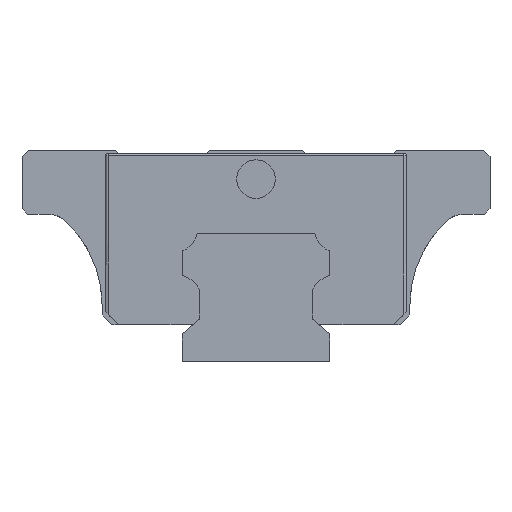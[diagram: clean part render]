
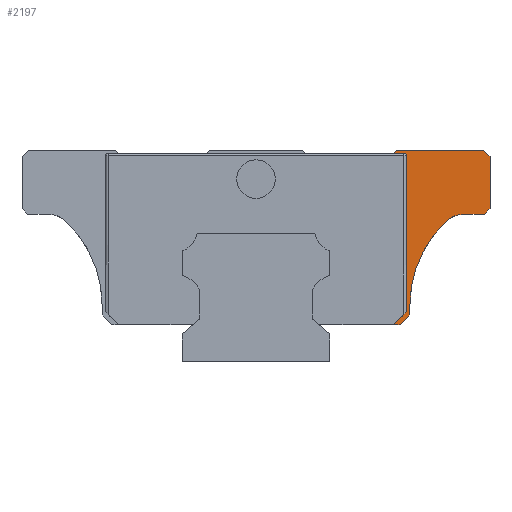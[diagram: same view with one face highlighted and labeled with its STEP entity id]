
A CAD part, left-side view. The second image highlights one B-rep face of the part: STEP entity #2197.
In plain terms, the highlighted planar face has unit normal (-1, 0, 0).
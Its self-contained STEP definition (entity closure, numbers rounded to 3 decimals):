
#31 = CARTESIAN_POINT ( 'NONE',  ( -29.5, -36.5, 33. ) ) ;
#33 = LINE ( 'NONE', #2576, #7843 ) ;
#90 = CIRCLE ( 'NONE', #6942, 0.365 ) ;
#96 = CARTESIAN_POINT ( 'NONE',  ( -29.5, -32.41, 19. ) ) ;
#135 = AXIS2_PLACEMENT_3D ( 'NONE', #96, #666, #5588 ) ;
#152 = VERTEX_POINT ( 'NONE', #2150 ) ;
#156 = CARTESIAN_POINT ( 'NONE',  ( -29.5, -35.6, 23. ) ) ;
#294 = CARTESIAN_POINT ( 'NONE',  ( -29.5, -21.443, 5.8 ) ) ;
#348 = VERTEX_POINT ( 'NONE', #2232 ) ;
#390 = VECTOR ( 'NONE', #4600, 1000. ) ;
#646 = LINE ( 'NONE', #5452, #4904 ) ;
#666 = DIRECTION ( 'NONE',  ( 1., 0., 0. ) ) ;
#789 = VECTOR ( 'NONE', #7481, 1000. ) ;
#818 = LINE ( 'NONE', #31, #6485 ) ;
#875 = ORIENTED_EDGE ( 'NONE', *, *, #2684, .T. ) ;
#941 = VERTEX_POINT ( 'NONE', #5234 ) ;
#1015 = CARTESIAN_POINT ( 'NONE',  ( -29.5, -23.084, 32.135 ) ) ;
#1020 = ORIENTED_EDGE ( 'NONE', *, *, #3218, .T. ) ;
#1041 = CIRCLE ( 'NONE', #135, 4. ) ;
#1079 = CARTESIAN_POINT ( 'NONE',  ( -29.5, -35.6, 23. ) ) ;
#1168 = ORIENTED_EDGE ( 'NONE', *, *, #7699, .T. ) ;
#1212 = CARTESIAN_POINT ( 'NONE',  ( -29.5, -10.009, 5.8 ) ) ;
#1253 = EDGE_CURVE ( 'NONE', #3992, #4781, #1041, .T. ) ;
#1373 = LINE ( 'NONE', #7544, #4984 ) ;
#1384 = ORIENTED_EDGE ( 'NONE', *, *, #7033, .T. ) ;
#1404 = DIRECTION ( 'NONE',  ( 0., 0., 1. ) ) ;
#1735 = EDGE_CURVE ( 'NONE', #3124, #348, #2598, .T. ) ;
#1811 = CARTESIAN_POINT ( 'NONE',  ( -29.5, -21.48, 32.5 ) ) ;
#2012 = LINE ( 'NONE', #3262, #2160 ) ;
#2050 = CARTESIAN_POINT ( 'NONE',  ( -29.5, -23.449, 7.806 ) ) ;
#2150 = CARTESIAN_POINT ( 'NONE',  ( -29.5, -24., 7.3 ) ) ;
#2160 = VECTOR ( 'NONE', #5204, 1000. ) ;
#2197 = ADVANCED_FACE ( 'NONE', ( #3834 ), #2413, .T. ) ;
#2232 = CARTESIAN_POINT ( 'NONE',  ( -29.5, -36.5, 32.05 ) ) ;
#2247 = VERTEX_POINT ( 'NONE', #3946 ) ;
#2271 = VERTEX_POINT ( 'NONE', #6438 ) ;
#2366 = ORIENTED_EDGE ( 'NONE', *, *, #3535, .T. ) ;
#2398 = ORIENTED_EDGE ( 'NONE', *, *, #5938, .T. ) ;
#2408 = ORIENTED_EDGE ( 'NONE', *, *, #1735, .T. ) ;
#2413 = PLANE ( 'NONE',  #3060 ) ;
#2504 = DIRECTION ( 'NONE',  ( 0., 0., 1. ) ) ;
#2563 = VERTEX_POINT ( 'NONE', #1811 ) ;
#2576 = CARTESIAN_POINT ( 'NONE',  ( -29.5, -24., 7.3 ) ) ;
#2598 = LINE ( 'NONE', #5711, #789 ) ;
#2612 = VECTOR ( 'NONE', #6588, 1000. ) ;
#2627 = DIRECTION ( 'NONE',  ( 0., 0., 1. ) ) ;
#2684 = EDGE_CURVE ( 'NONE', #2247, #2563, #1373, .T. ) ;
#2723 = DIRECTION ( 'NONE',  ( 1., 0., 0. ) ) ;
#2805 = VECTOR ( 'NONE', #5746, 1000. ) ;
#2991 = DIRECTION ( 'NONE',  ( 0., 0., 1. ) ) ;
#3060 = AXIS2_PLACEMENT_3D ( 'NONE', #1212, #5092, #7034 ) ;
#3089 = EDGE_CURVE ( 'NONE', #941, #7620, #7605, .T. ) ;
#3103 = VERTEX_POINT ( 'NONE', #6411 ) ;
#3124 = VERTEX_POINT ( 'NONE', #5140 ) ;
#3181 = EDGE_LOOP ( 'NONE', ( #2398, #3975, #875, #5929, #1020, #4697, #7815, #2366, #6184, #1384, #4121, #5620, #1168, #6162, #2408 ) ) ;
#3213 = VERTEX_POINT ( 'NONE', #4679 ) ;
#3218 = EDGE_CURVE ( 'NONE', #3103, #3213, #90, .T. ) ;
#3262 = CARTESIAN_POINT ( 'NONE',  ( -29.5, -36.5, 23.9 ) ) ;
#3402 = VERTEX_POINT ( 'NONE', #4452 ) ;
#3522 = VERTEX_POINT ( 'NONE', #156 ) ;
#3535 = EDGE_CURVE ( 'NONE', #941, #3402, #7627, .T. ) ;
#3578 = EDGE_CURVE ( 'NONE', #3522, #3124, #2012, .T. ) ;
#3611 = LINE ( 'NONE', #1079, #2612 ) ;
#3834 = FACE_OUTER_BOUND ( 'NONE', #3181, .T. ) ;
#3907 = DIRECTION ( 'NONE',  ( 0., -1., 0. ) ) ;
#3946 = CARTESIAN_POINT ( 'NONE',  ( -29.5, -21.9, 33. ) ) ;
#3975 = ORIENTED_EDGE ( 'NONE', *, *, #7210, .T. ) ;
#3992 = VERTEX_POINT ( 'NONE', #6410 ) ;
#4121 = ORIENTED_EDGE ( 'NONE', *, *, #5708, .T. ) ;
#4308 = DIRECTION ( 'NONE',  ( 0., 1., 0. ) ) ;
#4372 = EDGE_CURVE ( 'NONE', #3402, #152, #33, .T. ) ;
#4452 = CARTESIAN_POINT ( 'NONE',  ( -29.5, -22.5, 5.8 ) ) ;
#4574 = LINE ( 'NONE', #7055, #4755 ) ;
#4600 = DIRECTION ( 'NONE',  ( 0., 1., 0. ) ) ;
#4679 = CARTESIAN_POINT ( 'NONE',  ( -29.5, -23.449, 32.135 ) ) ;
#4697 = ORIENTED_EDGE ( 'NONE', *, *, #4969, .F. ) ;
#4755 = VECTOR ( 'NONE', #1404, 1000. ) ;
#4781 = VERTEX_POINT ( 'NONE', #6095 ) ;
#4904 = VECTOR ( 'NONE', #2504, 1000. ) ;
#4969 = EDGE_CURVE ( 'NONE', #7620, #3213, #4574, .T. ) ;
#4984 = VECTOR ( 'NONE', #7724, 1000. ) ;
#5001 = CARTESIAN_POINT ( 'NONE',  ( -29.5, -42., 8.8 ) ) ;
#5092 = DIRECTION ( 'NONE',  ( -1., 0., 0. ) ) ;
#5121 = CARTESIAN_POINT ( 'NONE',  ( -29.5, -11.736, 5.8 ) ) ;
#5140 = CARTESIAN_POINT ( 'NONE',  ( -29.5, -36.5, 23.9 ) ) ;
#5165 = AXIS2_PLACEMENT_3D ( 'NONE', #5001, #6312, #2627 ) ;
#5204 = DIRECTION ( 'NONE',  ( 0., -0.707, 0.707 ) ) ;
#5234 = CARTESIAN_POINT ( 'NONE',  ( -29.5, -21.443, 5.8 ) ) ;
#5452 = CARTESIAN_POINT ( 'NONE',  ( -29.5, -24., 8.8 ) ) ;
#5533 = EDGE_CURVE ( 'NONE', #3103, #2563, #7191, .T. ) ;
#5588 = DIRECTION ( 'NONE',  ( 0., 0., 1. ) ) ;
#5620 = ORIENTED_EDGE ( 'NONE', *, *, #1253, .T. ) ;
#5708 = EDGE_CURVE ( 'NONE', #2271, #3992, #6349, .T. ) ;
#5711 = CARTESIAN_POINT ( 'NONE',  ( -29.5, -36.5, 23. ) ) ;
#5746 = DIRECTION ( 'NONE',  ( 0., -0.707, 0.707 ) ) ;
#5929 = ORIENTED_EDGE ( 'NONE', *, *, #5533, .F. ) ;
#5938 = EDGE_CURVE ( 'NONE', #348, #6456, #6702, .T. ) ;
#5951 = VECTOR ( 'NONE', #7927, 1000. ) ;
#6095 = CARTESIAN_POINT ( 'NONE',  ( -29.5, -32.41, 23. ) ) ;
#6162 = ORIENTED_EDGE ( 'NONE', *, *, #3578, .T. ) ;
#6184 = ORIENTED_EDGE ( 'NONE', *, *, #4372, .T. ) ;
#6269 = DIRECTION ( 'NONE',  ( 0., -0.707, 0.707 ) ) ;
#6312 = DIRECTION ( 'NONE',  ( 1., 0., 0. ) ) ;
#6349 = CIRCLE ( 'NONE', #5165, 18. ) ;
#6410 = CARTESIAN_POINT ( 'NONE',  ( -29.5, -29.671, 21.914 ) ) ;
#6411 = CARTESIAN_POINT ( 'NONE',  ( -29.5, -23.084, 32.5 ) ) ;
#6438 = CARTESIAN_POINT ( 'NONE',  ( -29.5, -24., 8.8 ) ) ;
#6456 = VERTEX_POINT ( 'NONE', #7888 ) ;
#6485 = VECTOR ( 'NONE', #4308, 1000. ) ;
#6588 = DIRECTION ( 'NONE',  ( 0., -1., 0. ) ) ;
#6702 = LINE ( 'NONE', #7779, #5951 ) ;
#6942 = AXIS2_PLACEMENT_3D ( 'NONE', #1015, #2723, #2991 ) ;
#7033 = EDGE_CURVE ( 'NONE', #152, #2271, #646, .T. ) ;
#7034 = DIRECTION ( 'NONE',  ( 0., 0., 1. ) ) ;
#7055 = CARTESIAN_POINT ( 'NONE',  ( -29.5, -23.449, 7.8 ) ) ;
#7157 = CARTESIAN_POINT ( 'NONE',  ( -29.5, -24.589, 32.5 ) ) ;
#7191 = LINE ( 'NONE', #7157, #390 ) ;
#7210 = EDGE_CURVE ( 'NONE', #6456, #2247, #818, .T. ) ;
#7447 = VECTOR ( 'NONE', #3907, 1000. ) ;
#7481 = DIRECTION ( 'NONE',  ( 0., 0., 1. ) ) ;
#7544 = CARTESIAN_POINT ( 'NONE',  ( -29.5, -21.9, 33. ) ) ;
#7605 = LINE ( 'NONE', #294, #2805 ) ;
#7620 = VERTEX_POINT ( 'NONE', #2050 ) ;
#7627 = LINE ( 'NONE', #5121, #7447 ) ;
#7699 = EDGE_CURVE ( 'NONE', #4781, #3522, #3611, .T. ) ;
#7724 = DIRECTION ( 'NONE',  ( 0., 0.643, -0.766 ) ) ;
#7779 = CARTESIAN_POINT ( 'NONE',  ( -29.5, -35.55, 33. ) ) ;
#7815 = ORIENTED_EDGE ( 'NONE', *, *, #3089, .F. ) ;
#7843 = VECTOR ( 'NONE', #6269, 1000. ) ;
#7888 = CARTESIAN_POINT ( 'NONE',  ( -29.5, -35.55, 33. ) ) ;
#7927 = DIRECTION ( 'NONE',  ( 0., 0.707, 0.707 ) ) ;
